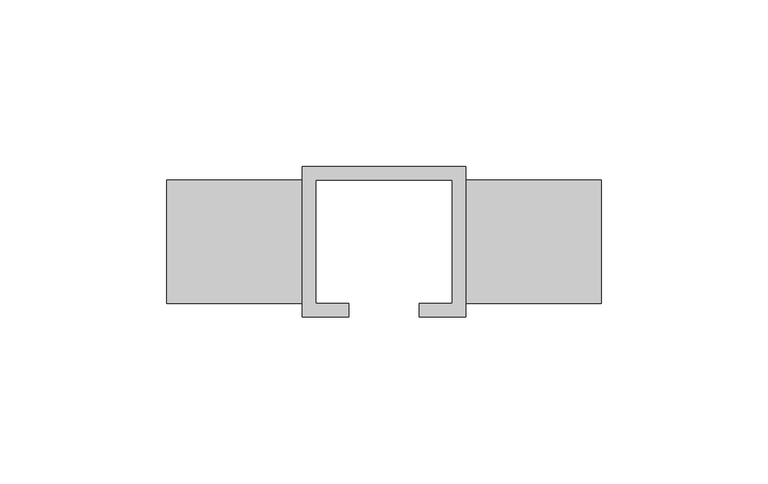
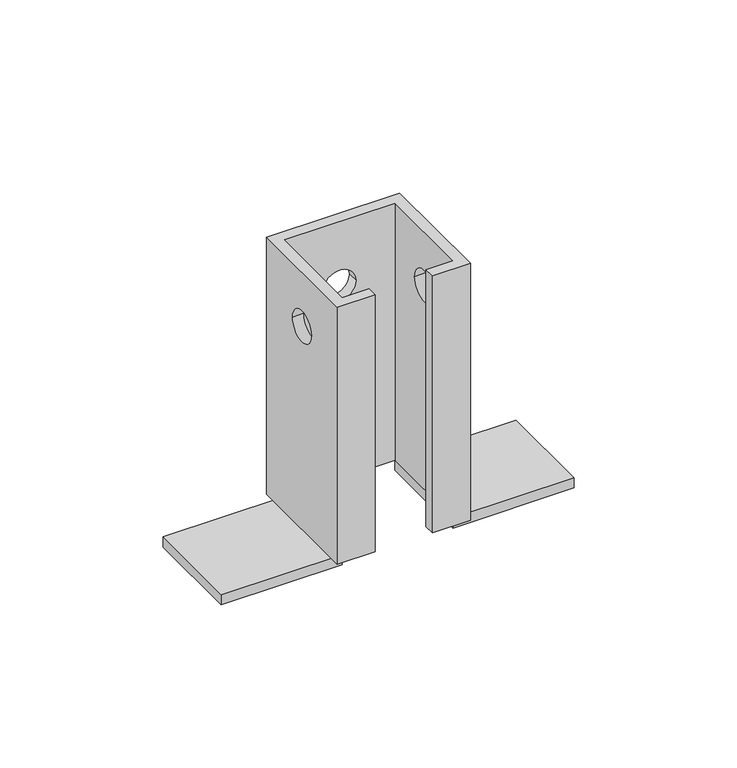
"""IFC4 building model written with IfcOpenShell, lengths in millimetres: proxy geometry, SBL41-3S_Base holder-Basorfix : Basorfix SBL41-3S GS."""

from ifc_helpers import new_model, si_unit, frame, origin, origin_with_axes, place, context, project, spatial, polyline, circle_curve, outline, extrude, source, transform, mapped, element, save
from ifc_brep_helpers import plane_surface, revolved_surface, advanced_brep


def generic_models_ce7bfeeb(model_context):
    return source(origin(), model_context, "Body", "SolidModel", [
        advanced_brep(
        [(-10.5, -22.5, 104.0), (-10.5, -18.5, 104.0), (-20.5, -18.5, 104.0), (-20.5, 18.5, 104.0), (20.5, 18.5, 104.0), (20.5, -18.5, 104.0), (10.5, -18.5, 104.0), (10.5, -22.5, 104.0), (24.5, -22.5, 104.0), (24.5, 22.5, 104.0), (-24.5, 22.5, 104.0), (-24.5, -22.5, 104.0), (-10.5, -22.5, 4.0), (-24.5, -22.5, 4.0), (-24.5, 22.5, 4.0), (24.5, 22.5, 4.0), (24.5, -22.5, 4.0), (10.5, -22.5, 4.0), (10.5, -18.5, 4.0), (20.5, -18.5, 4.0), (20.5, 18.5, 4.0), (-20.5, 18.5, 4.0), (-20.5, -18.5, 4.0), (-10.5, -18.5, 4.0), (6.0, 18.5, 79.0), (-6.0, 18.5, 79.0), (24.5, 6.0, 83.0), (24.5, -6.0, 83.0), (-6.0, 22.5, 79.0), (6.0, 22.5, 79.0), (-24.5, -6.0, 83.0), (-24.5, 6.0, 83.0), (-20.5, -6.0, 83.0), (-20.5, 6.0, 83.0), (20.5, -6.0, 83.0), (20.5, 6.0, 83.0)],
        [
            (0, 1),
            (1, 2),
            (2, 3),
            (3, 4),
            (4, 5),
            (5, 6),
            (6, 7),
            (7, 8),
            (8, 9),
            (9, 10),
            (10, 11),
            (11, 0),
            (12, 13),
            (13, 14),
            (14, 15),
            (15, 16),
            (16, 17),
            (17, 18),
            (18, 19),
            (19, 20),
            (20, 21),
            (21, 22),
            (22, 23),
            (23, 12),
            (3, 21),
            (20, 4),
            (24, 25, circle_curve(frame((0.0, 18.5, 79.0), z_axis=(0.0, 1.0, 0.0), x_axis=(1.0, 0.0, 0.0)), 6.0)),
            (25, 24, circle_curve(frame((0.0, 18.5, 79.0), z_axis=(0.0, 1.0, 0.0), x_axis=(1.0, 0.0, 0.0)), 6.0)),
            (7, 17),
            (16, 8),
            (15, 9),
            (26, 27, circle_curve(frame((24.5, 0.0, 83.0), z_axis=(-1.0, 0.0, 0.0), x_axis=(0.0, 1.0, 0.0)), 6.0)),
            (27, 26, circle_curve(frame((24.5, 0.0, 83.0), z_axis=(-1.0, 0.0, 0.0), x_axis=(0.0, 1.0, 0.0)), 6.0)),
            (14, 10),
            (28, 29, circle_curve(frame((0.0, 22.5, 79.0), z_axis=(0.0, -1.0, 0.0), x_axis=(1.0, 0.0, 0.0)), 6.0)),
            (29, 28, circle_curve(frame((0.0, 22.5, 79.0), z_axis=(0.0, -1.0, 0.0), x_axis=(1.0, 0.0, 0.0)), 6.0)),
            (13, 11),
            (30, 31, circle_curve(frame((-24.5, 0.0, 83.0), z_axis=(1.0, 0.0, 0.0), x_axis=(0.0, 1.0, 0.0)), 6.0)),
            (31, 30, circle_curve(frame((-24.5, 0.0, 83.0), z_axis=(1.0, 0.0, 0.0), x_axis=(0.0, 1.0, 0.0)), 6.0)),
            (12, 0),
            (30, 32),
            (32, 33, circle_curve(frame((-20.5, 0.0, 83.0), z_axis=(1.0, 0.0, 0.0), x_axis=(0.0, 1.0, 0.0)), 6.0)),
            (33, 31),
            (34, 27),
            (26, 35),
            (35, 34, circle_curve(frame((20.5, 0.0, 83.0), z_axis=(-1.0, 0.0, 0.0), x_axis=(0.0, 1.0, 0.0)), 6.0)),
            (33, 32, circle_curve(frame((-20.5, 0.0, 83.0), z_axis=(1.0, 0.0, 0.0), x_axis=(0.0, 1.0, 0.0)), 6.0)),
            (34, 35, circle_curve(frame((20.5, 0.0, 83.0), z_axis=(-1.0, 0.0, 0.0), x_axis=(0.0, 1.0, 0.0)), 6.0)),
            (23, 1),
            (22, 2),
            (19, 5),
            (18, 6),
            (24, 29),
            (28, 25),
        ],
        [
            plane_surface(frame((-10.5, -18.5, 104.0), z_axis=(0.0, 0.0, 1.0), x_axis=(0.0, 1.0, 0.0))),
            plane_surface(frame((-10.5, -18.5, 4.0), z_axis=(0.0, 0.0, -1.0), x_axis=(0.0, -1.0, 0.0))),
            plane_surface(frame((-20.5, 18.5, 104.0), z_axis=(0.0, -1.0, 0.0), x_axis=(0.0, 0.0, -1.0))),
            plane_surface(frame((10.5, -22.5, 104.0), z_axis=(0.0, -1.0, 0.0), x_axis=(0.0, 0.0, -1.0))),
            plane_surface(frame((24.5, -22.5, 104.0), z_axis=(1.0, 0.0, 0.0), x_axis=(0.0, 0.0, -1.0))),
            plane_surface(frame((24.5, 22.5, 104.0), z_axis=(0.0, 1.0, 0.0), x_axis=(0.0, 0.0, -1.0))),
            plane_surface(frame((-24.5, 22.5, 104.0), z_axis=(-1.0, 0.0, 0.0), x_axis=(0.0, 0.0, -1.0))),
            plane_surface(frame((-24.5, -22.5, 104.0), z_axis=(0.0, -1.0, 0.0), x_axis=(0.0, 0.0, -1.0))),
            revolved_surface(polyline([(-20.5, 6.0, 83.0), (-24.5, 6.0, 83.0)]), (-25.0, 0.0, 83.0), (1.0, 0.0, 0.0)),
            revolved_surface(polyline([(24.5, 6.0, 83.0), (20.5, 6.0, 83.0)]), (-25.0, 0.0, 83.0), (1.0, 0.0, 0.0)),
            plane_surface(frame((-10.5, -22.5, 104.0), z_axis=(1.0, 0.0, 0.0), x_axis=(0.0, 0.0, -1.0))),
            plane_surface(frame((-10.5, -18.5, 104.0), z_axis=(0.0, 1.0, 0.0), x_axis=(0.0, 0.0, -1.0))),
            plane_surface(frame((-20.5, -18.5, 104.0), z_axis=(1.0, 0.0, 0.0), x_axis=(0.0, 0.0, -1.0))),
            plane_surface(frame((20.5, 18.5, 104.0), z_axis=(-1.0, 0.0, 0.0), x_axis=(0.0, 0.0, -1.0))),
            plane_surface(frame((20.5, -18.5, 104.0), z_axis=(0.0, 1.0, 0.0), x_axis=(0.0, 0.0, -1.0))),
            plane_surface(frame((10.5, -18.5, 104.0), z_axis=(-1.0, 0.0, 0.0), x_axis=(0.0, 0.0, -1.0))),
            revolved_surface(polyline([(6.0, 18.5, 79.0), (6.0, 22.5, 79.0)]), (0.0, 22.5, 79.0), (0.0, -1.0, 0.0)),
        ],
        [
            (0, [[1, 2, 3, 4, 5, 6, 7, 8, 9, 10, 11, 12]]),
            (1, [[13, 14, 15, 16, 17, 18, 19, 20, 21, 22, 23, 24]]),
            (2, [[-4, 25, -21, 26], [27, 28]]),
            (3, [[-8, 29, -17, 30]]),
            (4, [[-9, -30, -16, 31], [32, 33]]),
            (5, [[-10, -31, -15, 34], [35, 36]]),
            (6, [[-11, -34, -14, 37], [38, 39]]),
            (7, [[-12, -37, -13, 40]]),
            (8, [[41, 42, 43, -38]]),
            (9, [[44, -32, 45, 46]]),
            (8, [[-41, -39, -43, 47]]),
            (9, [[-44, 48, -45, -33]]),
            (10, [[-1, -40, -24, 49]]),
            (11, [[-2, -49, -23, 50]]),
            (12, [[-3, -50, -22, -25], [-42, -47]]),
            (13, [[-5, -26, -20, 51], [-46, -48]]),
            (14, [[-6, -51, -19, 52]]),
            (15, [[-7, -52, -18, -29]]),
            (16, [[53, -35, 54, -27]]),
            (16, [[-53, -28, -54, -36]]),
        ],
    ),
        extrude(outline(polyline([(-65.0, 18.5), (-20.5, 18.5), (-20.5, -18.5), (-65.0, -18.5), (-65.0, 18.5)])), origin_with_axes(), (0.0, 0.0, 1.0), 4.0),
        extrude(outline(polyline([(65.0, -18.5), (20.5, -18.5), (20.5, 18.5), (65.0, 18.5), (65.0, -18.5)])), origin_with_axes(), (0.0, 0.0, 1.0), 4.0),
    ])


if __name__ == "__main__":
    model = new_model("IFC4")
    model_context = context("Model", 3, world=origin())
    ifc_project = project(units=[si_unit("LENGTHUNIT", "METRE", prefix="MILLI")], contexts=[model_context])
    site = spatial("IfcSite", under=ifc_project)
    building = spatial("IfcBuilding", under=site)
    placement = place(None, origin())
    generic_models_shape = generic_models_ce7bfeeb(model_context)
    element("IfcBuildingElementProxy", 1, Name="SBL41-3S_Base holder-Basorfix : Basorfix SBL41-3S GS", ObjectType="SBL41-3S_Base holder-Basorfix : Basorfix SBL41-3S GS", at=placement, inside=building, context=model_context, shape_type="MappedRepresentation", body=[
        mapped(generic_models_shape, transform((0.0, 0.0, 0.0), x_axis=(1.0, 0.0, 0.0), y_axis=(0.0, 1.0, 0.0), z_axis=(0.0, 0.0, 1.0))),
    ])
    save(model, "model.ifc")
